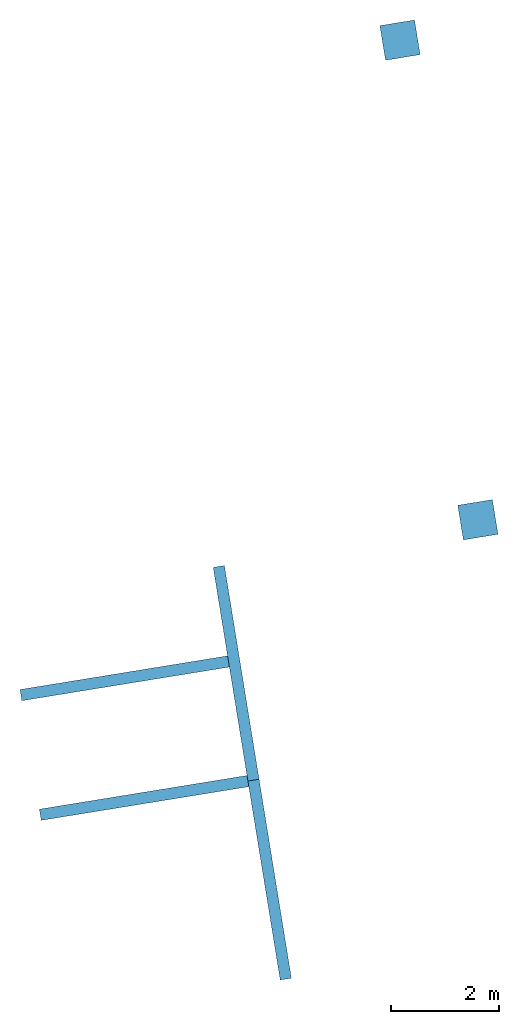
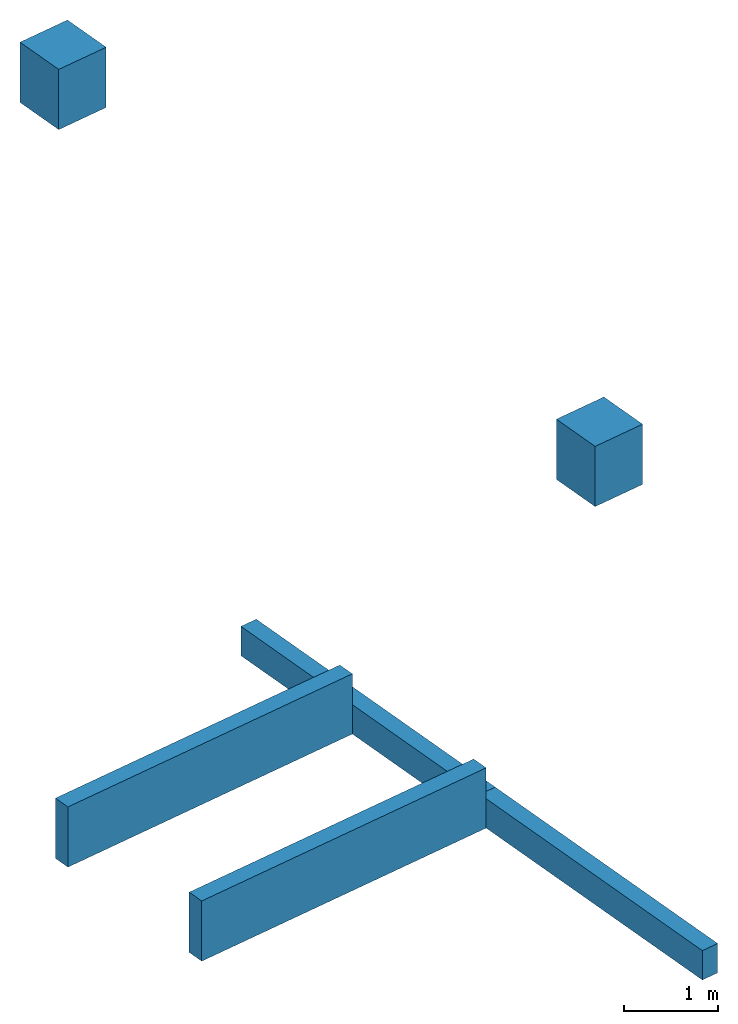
# One storey: 4 walls, 2 columns.
"""IFC2X3 building model written with IfcOpenShell, lengths in millimetres."""

from ifc_helpers import new_model, entity, si_unit, converted_unit, derived_unit, direction, frame, origin, origin_with_axes, place, context, subcontext, project, spatial, faceted_brep, material, layer, layer_set, type_object, element, save


model = new_model("IFC2X3")

# Units and contexts
plan_context = context("Plan", 3, precision=1e-05, world=origin_with_axes())
model_context = context("Model", 3, precision=0.01, world=origin(), true_north=direction((6.12323399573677e-17, 1.0)))
body_context = subcontext(model_context, "Body", "Model", "MODEL_VIEW")
ifc_project = project(units=[converted_unit("PLANEANGLEUNIT", "DEGREE", entity("IfcPositiveLengthMeasure", 0.0174532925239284), si_unit("PLANEANGLEUNIT", "RADIAN"), dimensions=[0, 0, 0, 0, 0, 0, 0]), si_unit("AREAUNIT", "SQUARE_METRE"), si_unit("LENGTHUNIT", "METRE", prefix="MILLI"), si_unit("MASSUNIT", "GRAM", prefix="KILO"), si_unit("POWERUNIT", "WATT"), si_unit("PRESSUREUNIT", "PASCAL", prefix="KILO"), si_unit("FORCEUNIT", "NEWTON", prefix="KILO"), si_unit("ELECTRICVOLTAGEUNIT", "VOLT"), si_unit("ELECTRICCURRENTUNIT", "AMPERE"), si_unit("THERMODYNAMICTEMPERATUREUNIT", "DEGREE_CELSIUS"), si_unit("TIMEUNIT", "SECOND"), si_unit("VOLUMEUNIT", "CUBIC_METRE"), derived_unit("LINEARVELOCITYUNIT", [(si_unit("LENGTHUNIT", "METRE"), 1), (si_unit("TIMEUNIT", "SECOND"), -1)]), derived_unit("VOLUMETRICFLOWRATEUNIT", [(si_unit("VOLUMEUNIT", "CUBIC_METRE"), 1), (si_unit("TIMEUNIT", "SECOND"), -1)]), derived_unit("THERMALTRANSMITTANCEUNIT", [(si_unit("POWERUNIT", "WATT"), 1), (si_unit("THERMODYNAMICTEMPERATUREUNIT", "KELVIN"), -1), (si_unit("AREAUNIT", "SQUARE_METRE"), -1)]), derived_unit("SOUNDPRESSUREUNIT", [(si_unit("PRESSUREUNIT", "PASCAL"), 1)])], contexts=[model_context, plan_context])

# Site, building, storey
site_placement = place(None, frame((-0.00071070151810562, 0.00438415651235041, 0.0), z_axis=(0.0, 0.0, 1.0), x_axis=(-0.160236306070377, 0.987078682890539, 0.0)))
site = spatial("IfcSite", under=ifc_project, at=site_placement, Name="Default", CompositionType="ELEMENT")
building_placement = place(site_placement, origin_with_axes())
building = spatial("IfcBuilding", under=site, at=building_placement, Name="TOO", CompositionType="ELEMENT")
storey_placement = place(building_placement, frame((0.0, 0.0, 50999.9999999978), z_axis=(0.0, 0.0, 1.0), x_axis=(1.0, 0.0, 0.0)))
storey = spatial("IfcBuildingStorey", under=building, at=storey_placement, Name="Nivå D", CompositionType="ELEMENT", Elevation=50999.9999999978)

# Columns
ifc_material_1 = material(Name="A200 - Betong")
column_type_1 = type_object("IfcColumnType", Name="A222 - Rektangulær Betongsøyle:A222 - Rektangulær Betongsøyle - 650 x 650 mm", PredefinedType="COLUMN", material=ifc_material_1)
column_1_placement = place(storey_placement, frame((779777.619644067, -509802.480498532, -50999.9999999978), z_axis=(0.0, 0.0, 1.0), x_axis=(1.0, 0.0, 0.0)))
element("IfcColumn", 1, at=column_1_placement, inside=storey, type_object=column_type_1, Name="A222 - Rektangulær Betongsøyle:A222 - Rektangulær Betongsøyle - 650 x 650 mm", ObjectType="A222 - Rektangulær Betongsøyle:A222 - Rektangulær Betongsøyle - 650 x 650 mm", context=body_context, shape_type="Brep", body=[
    faceted_brep([(425.0, -425.0, 57999.9999999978), (-225.0, -425.0, 57999.9999999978), (-225.0, -425.0, 58779.9999999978), (425.0, -425.0, 58779.9999999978), (425.0, 225.0, 57999.9999999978), (425.0, 225.0, 58779.9999999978), (-225.0, 225.0, 57999.9999999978), (-225.0, 225.0, 58779.9999999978)], [[[0, 1, 2, 3]], [[4, 0, 3, 5]], [[6, 4, 5, 7]], [[1, 6, 7, 2]], [[3, 2, 7, 5]], [[4, 6, 1, 0]]], orient=[[False], [False], [False], [False], [False], [False]]),
])
column_type_2 = type_object("IfcColumnType", Name="A222 - Rektangulær Betongsøyle:A222 - Rektangulær Betongsøyle - 650 x 650 mm", PredefinedType="COLUMN", material=ifc_material_1)
column_2_placement = place(storey_placement, frame((0.0, 0.0, -50999.9999999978), z_axis=(0.0, 0.0, 1.0), x_axis=(1.0, 0.0, 0.0)))
element("IfcColumn", 2, at=column_2_placement, inside=storey, type_object=column_type_2, Name="A222 - Rektangulær Betongsøyle:A222 - Rektangulær Betongsøyle - 650 x 650 mm", ObjectType="A222 - Rektangulær Betongsøyle:A222 - Rektangulær Betongsøyle - 650 x 650 mm", context=body_context, shape_type="Brep", body=[
    faceted_brep([(771202.619644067, -510227.480498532, 57999.9999999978), (770552.619644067, -510227.480498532, 57999.9999999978), (770552.619644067, -510227.480498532, 58779.9999999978), (771202.619644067, -510227.480498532, 58779.9999999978), (771202.619644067, -509577.480498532, 57999.9999999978), (771202.619644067, -509577.480498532, 58779.9999999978), (770552.619644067, -509577.480498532, 57999.9999999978), (770552.619644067, -509577.480498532, 58779.9999999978)], [[[0, 1, 2, 3]], [[4, 0, 3, 5]], [[6, 4, 5, 7]], [[1, 6, 7, 2]], [[3, 2, 7, 5]], [[4, 6, 1, 0]]], orient=[[False], [False], [False], [False], [False], [False]]),
])

# Walls
ifc_material_2 = material(Name="Puss")
ifc_layer_1 = layer(ifc_material_2, 10.0)
ifc_material_3 = material(Name="A242 - Lettklinkerblokker")
ifc_layer_2 = layer(ifc_material_3, 200.0)
ifc_layer_set = layer_set([ifc_layer_1, ifc_layer_2], Name="Basic Wall:A242 - Lettklinker - 200 mm")
wall_type = type_object("IfcWallType", Name="Basic Wall:A242 - Lettklinker - 200 mm", PredefinedType="STANDARD", material=ifc_layer_set)
wall_1_placement = place(storey_placement, frame((769027.619644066, -501027.480498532, 0.0), z_axis=(0.0, 0.0, 1.0), x_axis=(0.0, -1.0, 0.0)))
element("IfcWall", 3, at=wall_1_placement, inside=storey, type_object=wall_type, Name="Basic Wall:A242 - Lettklinker - 200 mm", ObjectType="Basic Wall:A242 - Lettklinker - 200 mm", context=body_context, shape_type="Brep", body=[
    faceted_brep([(3895.00000000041, 104.999999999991, 7000.0), (3895.00000000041, -104.999999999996, 7000.0), (3895.00000000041, -104.999999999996, 7780.0), (3895.00000000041, 104.999999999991, 7780.0), (0.0, 104.999999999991, 7000.0), (0.0, 104.999999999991, 7780.0), (0.0, -104.999999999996, 7000.0), (0.0, -104.999999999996, 7780.0)], [[[0, 1, 2, 3]], [[4, 0, 3, 5]], [[6, 4, 5, 7]], [[1, 6, 7, 2]], [[3, 2, 7, 5]], [[4, 6, 1, 0]]], orient=[[False], [False], [False], [False], [False], [False]]),
])
wall_2_placement = place(storey_placement, frame((766782.619644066, -501027.230498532, 0.0), z_axis=(0.0, 0.0, 1.0), x_axis=(0.0, -1.0, 0.0)))
element("IfcWall", 4, at=wall_2_placement, inside=storey, type_object=wall_type, Name="Basic Wall:A242 - Lettklinker - 200 mm", ObjectType="Basic Wall:A242 - Lettklinker - 200 mm", context=body_context, shape_type="Brep", body=[
    faceted_brep([(3895.25000000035, -105.0, 7000.0), (0.0, -105.0, 7000.0), (0.0, -105.0, 7780.0), (3895.25000000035, -105.0, 7780.0), (0.0, 105.0, 7000.0), (3895.25000000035, 105.0, 7000.0), (3895.25000000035, 105.0, 7780.0), (0.0, 105.0, 7780.0)], [[[0, 1, 2, 3]], [[4, 5, 6, 7]], [[7, 6, 3, 2]], [[1, 4, 7, 2]], [[5, 0, 3, 6]], [[5, 4, 1, 0]]], orient=[[False], [False], [False], [False], [False], [False]]),
])
wall_3_placement = place(storey_placement, frame((766782.619644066, -505027.480498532, -173.0), z_axis=(0.0, 0.0, 1.0), x_axis=(1.0, 0.0, 0.0)))
element("IfcWall", 5, at=wall_3_placement, inside=storey, type_object=wall_type, Name="Basic Wall:A242 - Lettklinker - 200 mm", ObjectType="Basic Wall:A242 - Lettklinker - 200 mm", context=body_context, shape_type="Brep", body=[
    faceted_brep([(4010.00000000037, 104.999999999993, 7173.0), (4010.00000000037, -104.999999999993, 7173.0), (4010.00000000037, -104.999999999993, 7553.0), (4010.00000000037, 104.999999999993, 7553.0), (0.0, 104.999999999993, 7173.0), (0.0, 104.999999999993, 7553.0), (0.0, -104.999999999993, 7173.0), (0.0, -104.999999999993, 7553.0)], [[[0, 1, 2, 3]], [[4, 0, 3, 5]], [[6, 4, 5, 7]], [[1, 6, 7, 2]], [[3, 2, 7, 5]], [[4, 6, 1, 0]]], orient=[[False], [False], [False], [False], [False], [False]]),
])
wall_4_placement = place(storey_placement, frame((761677.619644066, -505027.480498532, -173.0), z_axis=(0.0, 0.0, 1.0), x_axis=(1.0, 0.0, 0.0)))
element("IfcWall", 6, at=wall_4_placement, inside=storey, type_object=wall_type, Name="Basic Wall:A242 - Lettklinker - 200 mm", ObjectType="Basic Wall:A242 - Lettklinker - 200 mm", context=body_context, shape_type="Brep", body=[
    faceted_brep([(5104.99999999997, 104.999999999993, 7173.0), (5104.99999999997, -104.999999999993, 7173.0), (5104.99999999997, -104.999999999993, 7553.0), (5104.99999999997, 104.999999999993, 7553.0), (1372.50000000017, 104.999999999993, 7553.0), (1372.50000000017, 104.999999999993, 7173.0), (1372.50000000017, -104.999999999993, 7173.0), (1372.50000000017, -104.999999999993, 7553.0)], [[[0, 1, 2, 3]], [[4, 5, 0, 3]], [[1, 6, 7, 2]], [[7, 4, 3, 2]], [[5, 4, 7, 6]], [[6, 1, 0, 5]]], orient=[[False], [False], [False], [False], [False], [False]]),
])

save(model, "model.ifc")
